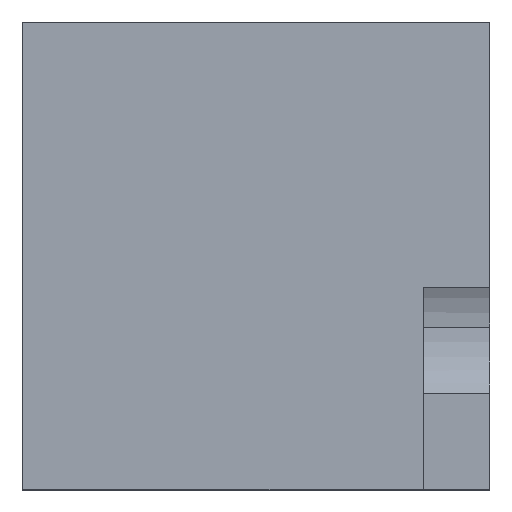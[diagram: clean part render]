
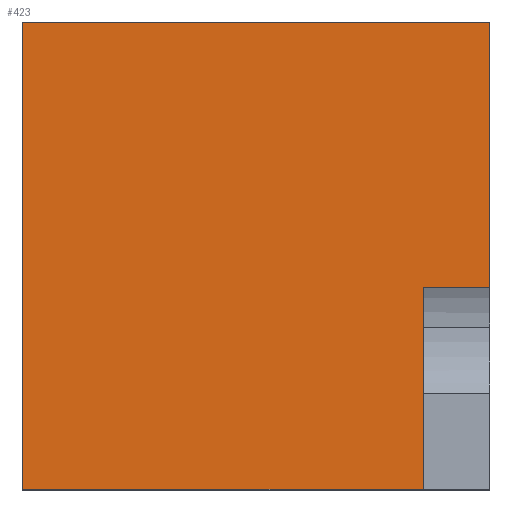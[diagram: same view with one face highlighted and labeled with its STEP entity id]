
A CAD part, top view. The second image highlights one B-rep face of the part: STEP entity #423.
In plain terms, the highlighted planar face has unit normal (0, 0, 1).
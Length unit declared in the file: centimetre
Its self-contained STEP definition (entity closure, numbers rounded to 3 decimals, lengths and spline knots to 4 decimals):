
#2 = VERTEX_POINT ( 'NONE', #248 ) ;
#14 = CARTESIAN_POINT ( 'NONE',  ( 0., 1000., 1000. ) ) ;
#19 = VECTOR ( 'NONE', #368, 100. ) ;
#22 = CARTESIAN_POINT ( 'NONE',  ( 1000., 1000., 1000. ) ) ;
#31 = VECTOR ( 'NONE', #230, 100. ) ;
#33 = CARTESIAN_POINT ( 'NONE',  ( 0., 1000., 1000. ) ) ;
#47 = VECTOR ( 'NONE', #173, 100. ) ;
#77 = VERTEX_POINT ( 'NONE', #286 ) ;
#79 = CARTESIAN_POINT ( 'NONE',  ( 0., 0., 1000. ) ) ;
#83 = CARTESIAN_POINT ( 'NONE',  ( 858.2491, 0., 1000. ) ) ;
#85 = CARTESIAN_POINT ( 'NONE',  ( 858.2491, 431.91, 1000. ) ) ;
#92 = CARTESIAN_POINT ( 'NONE',  ( 0., 0., 1000. ) ) ;
#95 = ORIENTED_EDGE ( 'NONE', *, *, #222, .T. ) ;
#96 = DIRECTION ( 'NONE',  ( 0., 0., 1. ) ) ;
#105 = VECTOR ( 'NONE', #324, 100. ) ;
#113 = LINE ( 'NONE', #383, #242 ) ;
#120 = LINE ( 'NONE', #22, #105 ) ;
#123 = LINE ( 'NONE', #400, #19 ) ;
#141 = EDGE_CURVE ( 'NONE', #77, #303, #382, .T. ) ;
#155 = ORIENTED_EDGE ( 'NONE', *, *, #371, .F. ) ;
#164 = VERTEX_POINT ( 'NONE', #85 ) ;
#173 = DIRECTION ( 'NONE',  ( 1., 0., 0. ) ) ;
#183 = EDGE_CURVE ( 'NONE', #164, #303, #113, .T. ) ;
#192 = EDGE_CURVE ( 'NONE', #339, #2, #120, .T. ) ;
#201 = CARTESIAN_POINT ( 'NONE',  ( 0., 1000., 1000. ) ) ;
#222 = EDGE_CURVE ( 'NONE', #2, #391, #422, .T. ) ;
#230 = DIRECTION ( 'NONE',  ( -1., 0., 0. ) ) ;
#234 = DIRECTION ( 'NONE',  ( 0., -1., 0. ) ) ;
#237 = ORIENTED_EDGE ( 'NONE', *, *, #352, .T. ) ;
#242 = VECTOR ( 'NONE', #290, 100. ) ;
#248 = CARTESIAN_POINT ( 'NONE',  ( 1000., 1000., 1000. ) ) ;
#254 = AXIS2_PLACEMENT_3D ( 'NONE', #92, #96, #403 ) ;
#271 = LINE ( 'NONE', #33, #350 ) ;
#286 = CARTESIAN_POINT ( 'NONE',  ( 0., 0., 1000. ) ) ;
#290 = DIRECTION ( 'NONE',  ( 0., -1., 0. ) ) ;
#297 = ORIENTED_EDGE ( 'NONE', *, *, #141, .T. ) ;
#302 = ORIENTED_EDGE ( 'NONE', *, *, #192, .T. ) ;
#303 = VERTEX_POINT ( 'NONE', #83 ) ;
#324 = DIRECTION ( 'NONE',  ( 0., 1., 0. ) ) ;
#337 = CARTESIAN_POINT ( 'NONE',  ( 1000., 431.91, 1000. ) ) ;
#339 = VERTEX_POINT ( 'NONE', #337 ) ;
#350 = VECTOR ( 'NONE', #234, 100. ) ;
#352 = EDGE_CURVE ( 'NONE', #391, #77, #271, .T. ) ;
#368 = DIRECTION ( 'NONE',  ( -1., 0., 0. ) ) ;
#371 = EDGE_CURVE ( 'NONE', #339, #164, #123, .T. ) ;
#378 = EDGE_LOOP ( 'NONE', ( #411, #155, #302, #95, #237, #297 ) ) ;
#382 = LINE ( 'NONE', #79, #47 ) ;
#383 = CARTESIAN_POINT ( 'NONE',  ( 858.2491, 0., 1000. ) ) ;
#391 = VERTEX_POINT ( 'NONE', #201 ) ;
#395 = PLANE ( 'NONE',  #254 ) ;
#399 = FACE_OUTER_BOUND ( 'NONE', #378, .T. ) ;
#400 = CARTESIAN_POINT ( 'NONE',  ( 858.2491, 431.91, 1000. ) ) ;
#403 = DIRECTION ( 'NONE',  ( 1., 0., 0. ) ) ;
#411 = ORIENTED_EDGE ( 'NONE', *, *, #183, .F. ) ;
#422 = LINE ( 'NONE', #14, #31 ) ;
#423 = ADVANCED_FACE ( 'NONE', ( #399 ), #395, .T. ) ;
